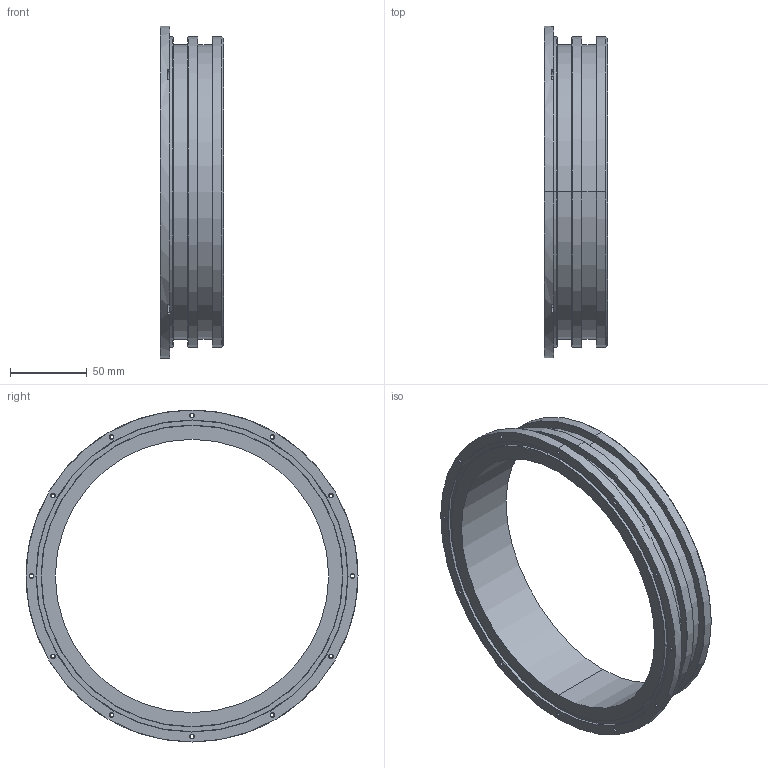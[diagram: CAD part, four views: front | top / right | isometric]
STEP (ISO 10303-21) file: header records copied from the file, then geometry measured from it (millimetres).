
FILE_DESCRIPTION (( 'STEP AP214' ), '1' );
FILE_NAME ('WTE8-M-FLANGE-SEAL-R1.STEP', '2022-11-08T17:53:51', ( '' ), ( '' ), 'SwSTEP 2.0', 'SolidWorks 2022', '' );
FILE_SCHEMA (( 'AUTOMOTIVE_DESIGN' ));
Length unit declared in the file: millimetre
Products named in the file (1): WTE8-M-FLANGE-SEAL-R1
Bounding box: 41 x 215.9 x 215.9 mm (x, y, z)
Volume: 255593.1 mm3; surface area: 86838.6 mm2
Topology: 1 solids, 1 shells, 131 faces, 312 edges, 186 vertices
Faces by surface type: cylinder 56, cone 54, plane 21
Entity records: 3830 total; most frequent: DIRECTION 734, CARTESIAN_POINT 622, ORIENTED_EDGE 608, EDGE_CURVE 304, AXIS2_PLACEMENT_3D 298, VERTEX_POINT 186, EDGE_LOOP 168, CIRCLE 166
